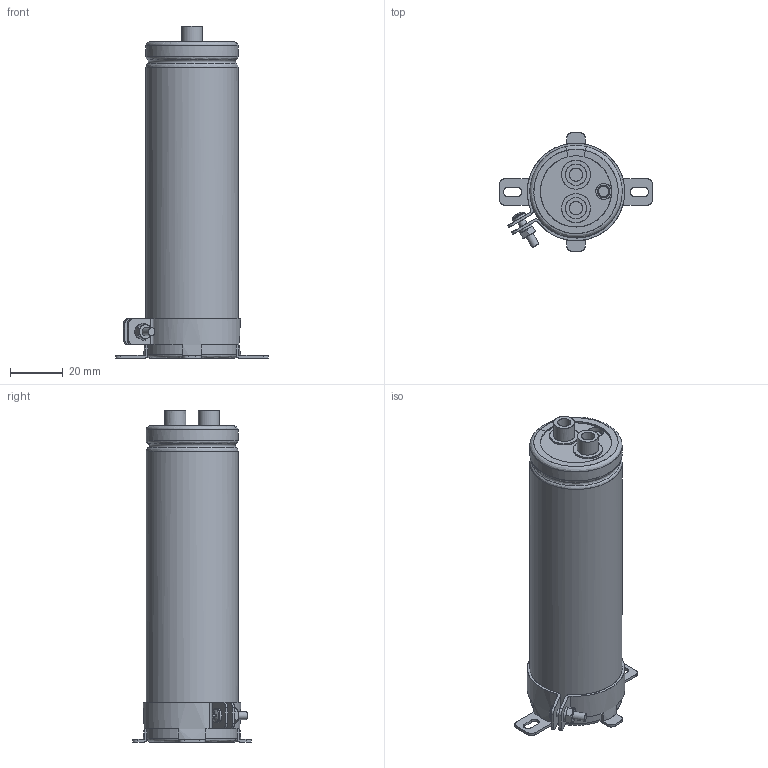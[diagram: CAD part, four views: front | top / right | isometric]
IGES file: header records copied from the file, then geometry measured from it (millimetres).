
Start section: JAMA-IS VERSION  1.0
Bounding box: 58 x 45 x 126 mm (x, y, z)
Surface area: 46998.8 mm2 (no closed solid volume)
Topology: 0 solids, 0 shells, 171 faces, 3555 edges, 3522 vertices
Faces by surface type: bspline 171
